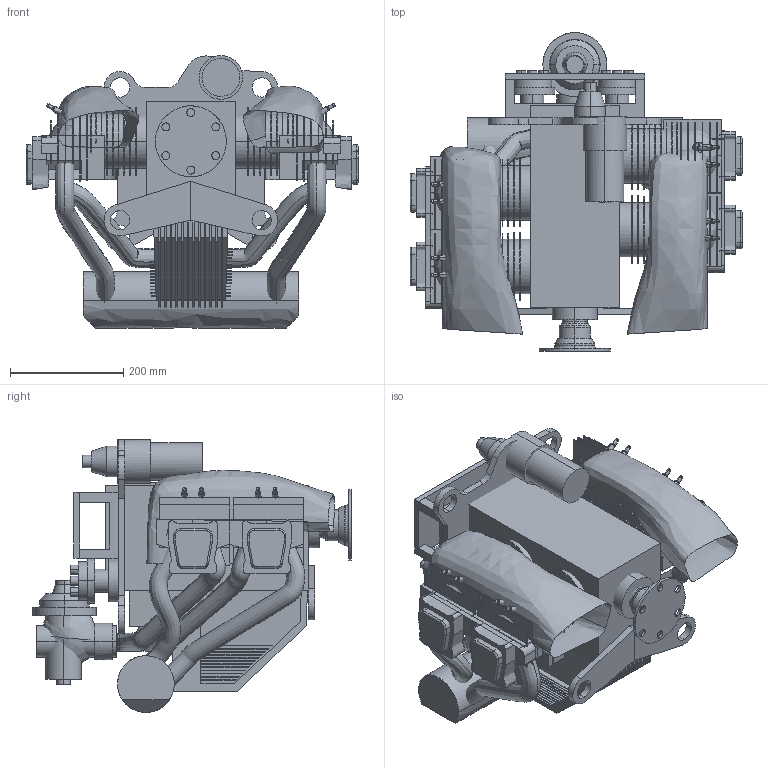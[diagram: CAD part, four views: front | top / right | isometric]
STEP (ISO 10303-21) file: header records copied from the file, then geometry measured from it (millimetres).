
FILE_DESCRIPTION(/* description */ (''),/* implementation_level */ '2;1');
FILE_NAME(/* name */ 'jabiru2200',/* time_stamp */ '2011-03-08T08:50:47+02:00',/* author */ (''),/* organization */ (''),/* preprocessor_version */ 'ST-DEVELOPER v10',/* originating_system */ '',/* authorisation */ '');
FILE_SCHEMA (('CONFIG_CONTROL_DESIGN'));
Length unit declared in the file: millimetre
Products named in the file (1): 1
Bounding box: 585.56 x 562.25 x 481.11 mm (x, y, z)
Volume: 36368255.1 mm3; surface area: 5111876.2 mm2
Topology: 169 solids, 192 shells, 1230 faces, 2524 edges, 1629 vertices
Faces by surface type: plane 789, bspline 441
Entity records: 42165 total; most frequent: CARTESIAN_POINT 24889, ORIENTED_EDGE 4887, EDGE_CURVE 2480, B_SPLINE_CURVE_WITH_KNOTS 1689, VERTEX_POINT 1619, EDGE_LOOP 1256, ADVANCED_FACE 1230, FACE_OUTER_BOUND 1230
